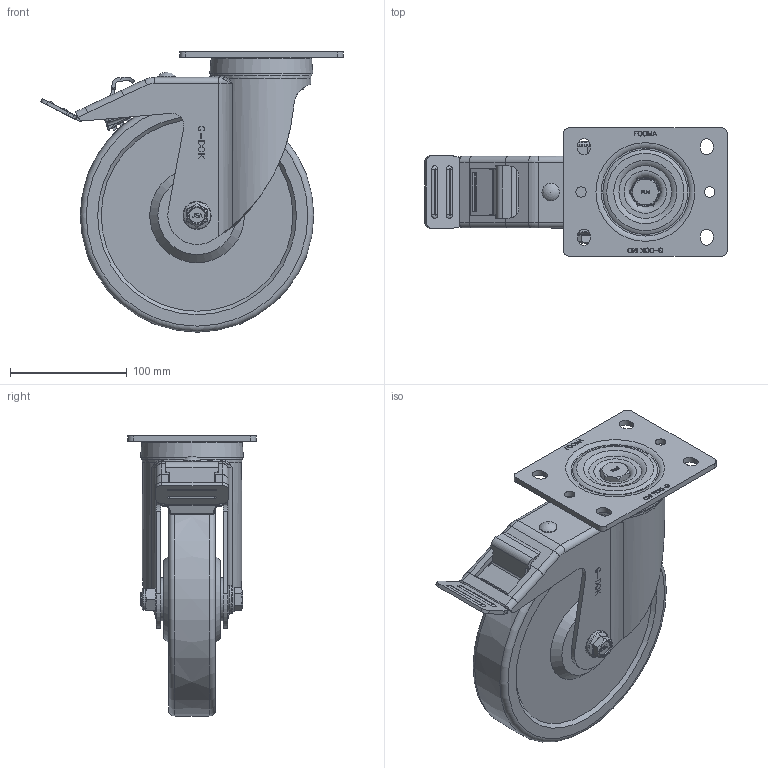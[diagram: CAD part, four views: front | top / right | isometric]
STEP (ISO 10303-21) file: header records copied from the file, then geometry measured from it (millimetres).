
FILE_DESCRIPTION(/* description */ (''),/* implementation_level */ '2;1');
FILE_NAME(/* name */ '\\192.168.10.38\지덕공유\1.기술연구소\2.연구개발 진행중\28.PLM-SERIES_MEDIUM\제품설계\홈페이지용 도면\PLM-200-BSF-MCD-PEU.stp',/* time_stamp */ '2022-03-04T18:51:04+09:00',/* author */ ('admin'),/* organization */ (''),/* preprocessor_version */ 'ST-DEVELOPER v18.1',/* originating_system */ 'Autodesk Inventor 2021',/* authorisation */ '');
FILE_SCHEMA (('AUTOMOTIVE_DESIGN { 1 0 10303 214 3 1 1 }'));
Products named in the file (1): PLM-200-BSF-MCD-PEU
Bounding box: 258.62 x 110 x 240 mm (x, y, z)
Volume: 1550102.7 mm3; surface area: 227898.9 mm2
Topology: 3 solids, 3 shells, 1680 faces, 4572 edges, 2943 vertices
Faces by surface type: plane 949, cylinder 375, bspline 243, cone 52, torus 40, sphere 21
Full cylindrical faces by diameter (mm): 0.136 x1, 3 x1, 3.2 x3, 6 x2, 9 x3, 12 x1, 14 x1, 15 x1, 16 x1, 18.5 x1, 24 x1, 37 x2, 64.8 x1, 72.8 x1, 85.857 x1
Entity records: 59649 total; most frequent: CARTESIAN_POINT 18703, ORIENTED_EDGE 9098, DIRECTION 7680, EDGE_CURVE 4549, VERTEX_POINT 2943, LINE 2860, VECTOR 2860, AXIS2_PLACEMENT_3D 2410
